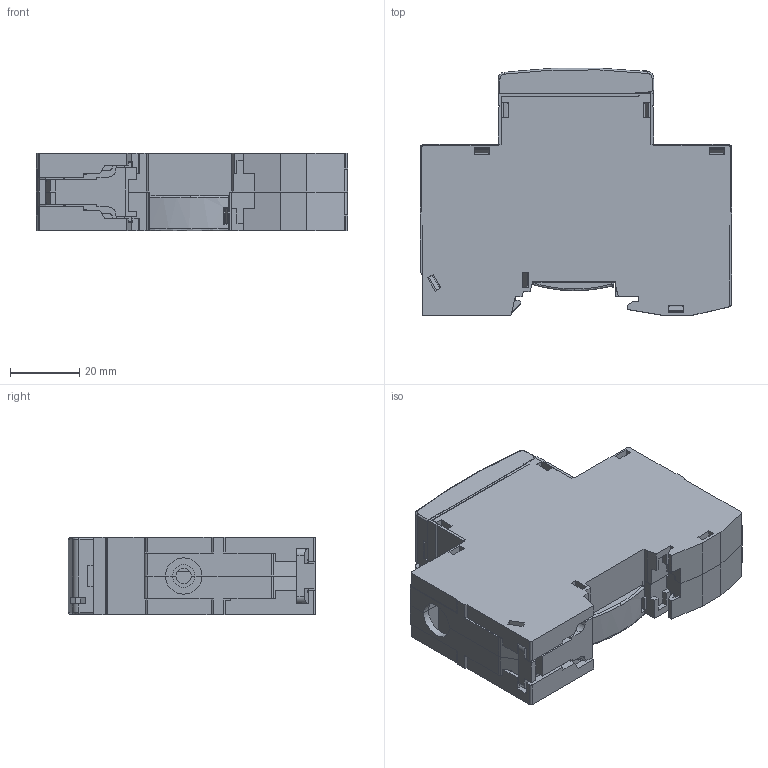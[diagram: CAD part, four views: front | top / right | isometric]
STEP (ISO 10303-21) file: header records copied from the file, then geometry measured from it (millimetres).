
FILE_DESCRIPTION (( 'STEP AP203' ), '1' );
FILE_NAME ('DF-WIFI-BT.STEP', '2021-07-07T07:23:32', ( '' ), ( '' ), 'SwSTEP 2.0', 'SolidWorks 2018', '' );
FILE_SCHEMA (( 'CONFIG_CONTROL_DESIGN' ));
Products named in the file (11): DF-WIFI-BT; 8LD.005.0085.STEP; DF-WIFI.STEP; 8LD.143.1054.STEP; CNT-OQxx12x0xxxxG蚾饜极; 8LD.005.0087.STEP; 8LD.300.1296.STEP; dinkle_ech350r-02p.STEP; 8LD.322.1029.STEP; 8LD.321.1002.STEP; 5LD.421.0008（DF-WIFI-BT）.STEP
Assembly tree (13 placements, depth 3):
  DF-WIFI-BT
    5LD.421.0008（DF-WIFI-BT）.STEP
      8LD.005.0085.STEP
      8LD.005.0087.STEP
      8LD.300.1296.STEP
      8LD.322.1029.STEP
      8LD.143.1054.STEP
      8LD.321.1002.STEP  x4
      DF-WIFI.STEP
      dinkle_ech350r-02p.STEP
    CNT-OQxx12x0xxxxG蚾饜极
Bounding box: 90 x 71.59 x 22.5 mm (x, y, z)
Volume: 35844.7 mm3; surface area: 54879 mm2
Topology: 59 solids, 59 shells, 6281 faces, 16658 edges, 10475 vertices
Faces by surface type: plane 3256, bspline 1877, cylinder 1125, torus 12, cone 11
Entity records: 311483 total; most frequent: CARTESIAN_POINT 168205, ORIENTED_EDGE 32448, DIRECTION 24010, EDGE_CURVE 16224, LINE 10738, VECTOR 10738, VERTEX_POINT 10403, AXIS2_PLACEMENT_3D 6636
